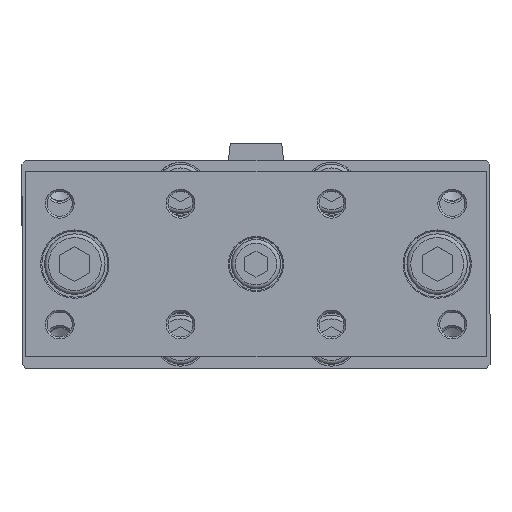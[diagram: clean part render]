
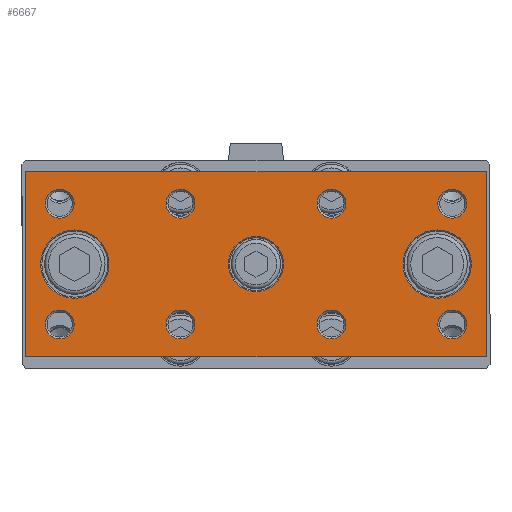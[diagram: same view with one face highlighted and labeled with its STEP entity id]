
A CAD part, top view. The second image highlights one B-rep face of the part: STEP entity #6667.
In plain terms, the highlighted planar face has unit normal (0, 0, 1).
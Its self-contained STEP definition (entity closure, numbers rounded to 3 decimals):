
#6503=CARTESIAN_POINT('',(-38.352,1.555,153.5));
#6504=VERTEX_POINT('',#6503);
#6505=CARTESIAN_POINT('',(-47.402,1.555,153.5));
#6506=DIRECTION('',(0.0,0.0,1.0));
#6507=DIRECTION('',(-1.0,0.0,0.0));
#6508=AXIS2_PLACEMENT_3D('',#6505,#6506,#6507);
#6509=CIRCLE('',#6508,9.05);
#6510=EDGE_CURVE('',#6504,#6504,#6509,.T.);
#6515=CARTESIAN_POINT('',(0.598,5.555,153.5));
#6516=DIRECTION('',(0.0,0.0,1.0));
#6517=DIRECTION('',(1.0,0.0,0.0));
#6518=AXIS2_PLACEMENT_3D('',#6515,#6516,#6517);
#6519=PLANE('',#6518);
#6520=CARTESIAN_POINT('',(61.598,26.055,153.5));
#6521=VERTEX_POINT('',#6520);
#6522=CARTESIAN_POINT('',(61.598,-22.945,153.5));
#6523=VERTEX_POINT('',#6522);
#6524=CARTESIAN_POINT('',(61.598,26.055,153.5));
#6525=DIRECTION('',(0.0,-1.0,0.0));
#6526=VECTOR('',#6525,49.);
#6527=LINE('',#6524,#6526);
#6528=EDGE_CURVE('',#6521,#6523,#6527,.T.);
#6529=ORIENTED_EDGE('',*,*,#6528,.F.);
#6530=CARTESIAN_POINT('',(-60.402,26.055,153.5));
#6531=VERTEX_POINT('',#6530);
#6532=CARTESIAN_POINT('',(-60.402,26.055,153.5));
#6533=DIRECTION('',(1.0,0.0,0.0));
#6534=VECTOR('',#6533,122.0);
#6535=LINE('',#6532,#6534);
#6536=EDGE_CURVE('',#6531,#6521,#6535,.T.);
#6537=ORIENTED_EDGE('',*,*,#6536,.F.);
#6538=CARTESIAN_POINT('',(-60.402,-22.945,153.5));
#6539=VERTEX_POINT('',#6538);
#6540=CARTESIAN_POINT('',(-60.402,-22.945,153.5));
#6541=DIRECTION('',(0.0,1.0,0.0));
#6542=VECTOR('',#6541,49.);
#6543=LINE('',#6540,#6542);
#6544=EDGE_CURVE('',#6539,#6531,#6543,.T.);
#6545=ORIENTED_EDGE('',*,*,#6544,.F.);
#6546=CARTESIAN_POINT('',(61.598,-22.945,153.5));
#6547=DIRECTION('',(-1.0,0.0,0.0));
#6548=VECTOR('',#6547,122.);
#6549=LINE('',#6546,#6548);
#6550=EDGE_CURVE('',#6523,#6539,#6549,.T.);
#6551=ORIENTED_EDGE('',*,*,#6550,.F.);
#6552=EDGE_LOOP('',(#6529,#6537,#6545,#6551));
#6553=FACE_OUTER_BOUND('',#6552,.T.);
#6554=CARTESIAN_POINT('',(7.898,1.555,153.5));
#6555=VERTEX_POINT('',#6554);
#6556=CARTESIAN_POINT('',(0.598,1.555,153.5));
#6557=DIRECTION('',(0.0,0.0,1.0));
#6558=DIRECTION('',(-1.0,0.0,0.0));
#6559=AXIS2_PLACEMENT_3D('',#6556,#6557,#6558);
#6560=CIRCLE('',#6559,7.3);
#6561=EDGE_CURVE('',#6555,#6555,#6560,.T.);
#6562=ORIENTED_EDGE('',*,*,#6561,.F.);
#6563=EDGE_LOOP('',(#6562));
#6564=FACE_BOUND('',#6563,.T.);
#6565=CARTESIAN_POINT('',(24.422,-14.445,153.5));
#6566=VERTEX_POINT('',#6565);
#6567=CARTESIAN_POINT('',(20.598,-14.445,153.5));
#6568=DIRECTION('',(0.0,0.0,1.0));
#6569=DIRECTION('',(-1.0,0.0,0.0));
#6570=AXIS2_PLACEMENT_3D('',#6567,#6568,#6569);
#6571=CIRCLE('',#6570,3.824);
#6572=EDGE_CURVE('',#6566,#6566,#6571,.T.);
#6573=ORIENTED_EDGE('',*,*,#6572,.F.);
#6574=EDGE_LOOP('',(#6573));
#6575=FACE_BOUND('',#6574,.T.);
#6576=CARTESIAN_POINT('',(-47.578,-14.445,153.5));
#6577=VERTEX_POINT('',#6576);
#6578=CARTESIAN_POINT('',(-51.402,-14.445,153.5));
#6579=DIRECTION('',(0.0,0.0,1.0));
#6580=DIRECTION('',(-1.0,0.0,0.0));
#6581=AXIS2_PLACEMENT_3D('',#6578,#6579,#6580);
#6582=CIRCLE('',#6581,3.823);
#6583=EDGE_CURVE('',#6577,#6577,#6582,.T.);
#6584=ORIENTED_EDGE('',*,*,#6583,.F.);
#6585=EDGE_LOOP('',(#6584));
#6586=FACE_BOUND('',#6585,.T.);
#6587=CARTESIAN_POINT('',(56.422,17.555,153.5));
#6588=VERTEX_POINT('',#6587);
#6589=CARTESIAN_POINT('',(52.598,17.555,153.5));
#6590=DIRECTION('',(0.0,0.0,1.0));
#6591=DIRECTION('',(-1.0,0.0,0.0));
#6592=AXIS2_PLACEMENT_3D('',#6589,#6590,#6591);
#6593=CIRCLE('',#6592,3.823);
#6594=EDGE_CURVE('',#6588,#6588,#6593,.T.);
#6595=ORIENTED_EDGE('',*,*,#6594,.F.);
#6596=EDGE_LOOP('',(#6595));
#6597=FACE_BOUND('',#6596,.T.);
#6598=CARTESIAN_POINT('',(56.422,-14.445,153.5));
#6599=VERTEX_POINT('',#6598);
#6600=CARTESIAN_POINT('',(52.598,-14.445,153.5));
#6601=DIRECTION('',(0.0,0.0,1.0));
#6602=DIRECTION('',(-1.0,0.0,0.0));
#6603=AXIS2_PLACEMENT_3D('',#6600,#6601,#6602);
#6604=CIRCLE('',#6603,3.823);
#6605=EDGE_CURVE('',#6599,#6599,#6604,.T.);
#6606=ORIENTED_EDGE('',*,*,#6605,.F.);
#6607=EDGE_LOOP('',(#6606));
#6608=FACE_BOUND('',#6607,.T.);
#6609=CARTESIAN_POINT('',(-47.578,17.555,153.5));
#6610=VERTEX_POINT('',#6609);
#6611=CARTESIAN_POINT('',(-51.402,17.555,153.5));
#6612=DIRECTION('',(0.0,0.0,1.0));
#6613=DIRECTION('',(-1.0,0.0,0.0));
#6614=AXIS2_PLACEMENT_3D('',#6611,#6612,#6613);
#6615=CIRCLE('',#6614,3.823);
#6616=EDGE_CURVE('',#6610,#6610,#6615,.T.);
#6617=ORIENTED_EDGE('',*,*,#6616,.F.);
#6618=EDGE_LOOP('',(#6617));
#6619=FACE_BOUND('',#6618,.T.);
#6620=CARTESIAN_POINT('',(-15.578,17.555,153.5));
#6621=VERTEX_POINT('',#6620);
#6622=CARTESIAN_POINT('',(-19.402,17.555,153.5));
#6623=DIRECTION('',(0.0,0.0,1.0));
#6624=DIRECTION('',(-1.0,0.0,0.0));
#6625=AXIS2_PLACEMENT_3D('',#6622,#6623,#6624);
#6626=CIRCLE('',#6625,3.823);
#6627=EDGE_CURVE('',#6621,#6621,#6626,.T.);
#6628=ORIENTED_EDGE('',*,*,#6627,.F.);
#6629=EDGE_LOOP('',(#6628));
#6630=FACE_BOUND('',#6629,.T.);
#6631=CARTESIAN_POINT('',(24.422,17.555,153.5));
#6632=VERTEX_POINT('',#6631);
#6633=CARTESIAN_POINT('',(20.598,17.555,153.5));
#6634=DIRECTION('',(0.0,0.0,1.0));
#6635=DIRECTION('',(-1.0,0.0,0.0));
#6636=AXIS2_PLACEMENT_3D('',#6633,#6634,#6635);
#6637=CIRCLE('',#6636,3.824);
#6638=EDGE_CURVE('',#6632,#6632,#6637,.T.);
#6639=ORIENTED_EDGE('',*,*,#6638,.F.);
#6640=EDGE_LOOP('',(#6639));
#6641=FACE_BOUND('',#6640,.T.);
#6642=CARTESIAN_POINT('',(-15.578,-14.445,153.5));
#6643=VERTEX_POINT('',#6642);
#6644=CARTESIAN_POINT('',(-19.402,-14.445,153.5));
#6645=DIRECTION('',(0.0,0.0,1.0));
#6646=DIRECTION('',(-1.0,0.0,0.0));
#6647=AXIS2_PLACEMENT_3D('',#6644,#6645,#6646);
#6648=CIRCLE('',#6647,3.823);
#6649=EDGE_CURVE('',#6643,#6643,#6648,.T.);
#6650=ORIENTED_EDGE('',*,*,#6649,.F.);
#6651=EDGE_LOOP('',(#6650));
#6652=FACE_BOUND('',#6651,.T.);
#6653=CARTESIAN_POINT('',(57.648,1.555,153.5));
#6654=VERTEX_POINT('',#6653);
#6655=CARTESIAN_POINT('',(48.598,1.555,153.5));
#6656=DIRECTION('',(0.0,0.0,1.0));
#6657=DIRECTION('',(-1.0,0.0,0.0));
#6658=AXIS2_PLACEMENT_3D('',#6655,#6656,#6657);
#6659=CIRCLE('',#6658,9.05);
#6660=EDGE_CURVE('',#6654,#6654,#6659,.T.);
#6661=ORIENTED_EDGE('',*,*,#6660,.F.);
#6662=EDGE_LOOP('',(#6661));
#6663=FACE_BOUND('',#6662,.T.);
#6664=ORIENTED_EDGE('',*,*,#6510,.F.);
#6665=EDGE_LOOP('',(#6664));
#6666=FACE_BOUND('',#6665,.T.);
#6667=ADVANCED_FACE('',(#6553,#6564,#6575,#6586,#6597,#6608,#6619,#6630,#6641,#6652,#6663,#6666),#6519,.T.);
